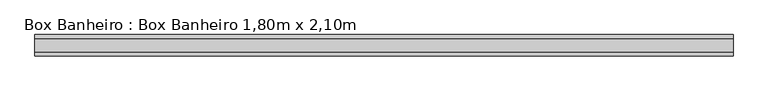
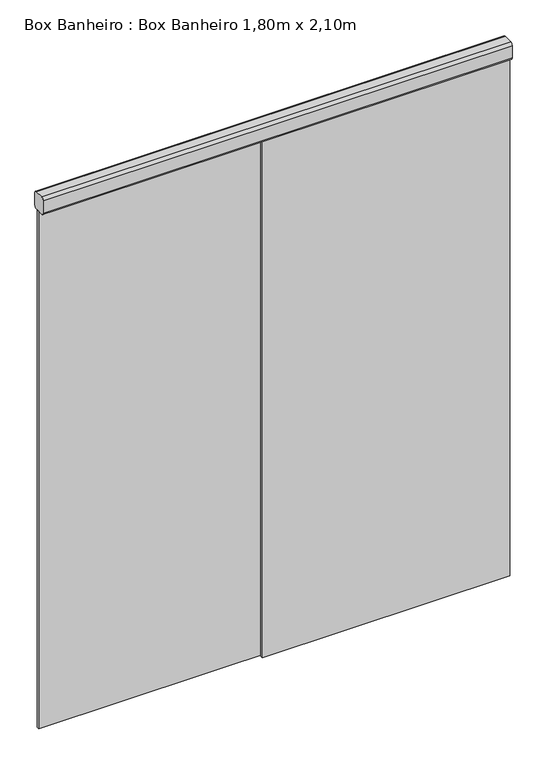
"""IFC4 building model written with IfcOpenShell, lengths in millimetres: proxy geometry, Box Banheiro : Box Banheiro 1,80m x 2,10m."""

from ifc_helpers import new_model, si_unit, point, frame, frame_2d, origin, origin_with_axes, place, context, project, spatial, polyline, circle_curve, trimmed, segment, composite_curve, outline, extrude, source, transform, mapped, element, save


def box_banheiro_box_banheiro_1_80m_x_2_10m_d8e99c4d(model_context):
    return source(origin(), model_context, "Body", "SweptSolid", [
        extrude(outline(polyline([(50.0, 12.5), (50.0, 2.5), (-900.0, 2.5), (-900.0, 12.5), (50.0, 12.5)])), origin_with_axes(), (0.0, 0.0, 1.0), 2100.0),
        extrude(outline(polyline([(900.0, -2.5), (900.0, -12.5), (-50.0, -12.5), (-50.0, -2.5), (900.0, -2.5)])), origin_with_axes(), (0.0, 0.0, 1.0), 2100.0),
        extrude(outline(composite_curve([segment(polyline([(17.5, 2100.0), (-17.5, 2100.0)]), True, "CONTINUOUS"), segment(trimmed(circle_curve(frame_2d((-17.5, 2110.0)), 10.0), [point((-17.5, 2100.0))], [point((-27.5, 2110.0))], False, "CARTESIAN"), True, "CONTINUOUS"), segment(polyline([(-27.5, 2110.0), (-27.5, 2160.0)]), True, "CONTINUOUS"), segment(trimmed(circle_curve(frame_2d((-17.5, 2160.0)), 10.0), [point((-27.5, 2160.0))], [point((-17.5, 2170.0))], False, "CARTESIAN"), True, "CONTINUOUS"), segment(polyline([(-17.5, 2170.0), (17.5, 2170.0)]), True, "CONTINUOUS"), segment(trimmed(circle_curve(frame_2d((17.5, 2160.0)), 10.0), [point((17.5, 2170.0))], [point((27.5, 2160.0))], False, "CARTESIAN"), True, "CONTINUOUS"), segment(polyline([(27.5, 2160.0), (27.5, 2110.0)]), True, "CONTINUOUS"), segment(trimmed(circle_curve(frame_2d((17.5, 2110.0)), 10.0), [point((27.5, 2110.0))], [point((17.5, 2100.0))], False, "CARTESIAN"), True, "CONTINUOUS")], self_intersect=False)), frame((-900.0, 0.0, 0.0), z_axis=(1.0, 0.0, 0.0), x_axis=(0.0, 1.0, 0.0)), (0.0, 0.0, 1.0), 1800.0),
    ])


if __name__ == "__main__":
    model = new_model("IFC4")
    model_context = context("Model", 3, world=origin())
    ifc_project = project(units=[si_unit("LENGTHUNIT", "METRE", prefix="MILLI")], contexts=[model_context])
    site = spatial("IfcSite", under=ifc_project)
    building = spatial("IfcBuilding", under=site)
    placement = place(None, origin())
    box_banheiro_box_banheiro_1_80m_x_2_10m_shape = box_banheiro_box_banheiro_1_80m_x_2_10m_d8e99c4d(model_context)
    element("IfcBuildingElementProxy", 1, Name="Box Banheiro : Box Banheiro 1,80m x 2,10m", ObjectType="Box Banheiro : Box Banheiro 1,80m x 2,10m", at=placement, inside=building, context=model_context, shape_type="MappedRepresentation", body=[
        mapped(box_banheiro_box_banheiro_1_80m_x_2_10m_shape, transform((0.0, 0.0, 0.0), x_axis=(1.0, 0.0, 0.0), y_axis=(0.0, 1.0, 0.0), z_axis=(0.0, 0.0, 1.0))),
    ])
    save(model, "model.ifc")
